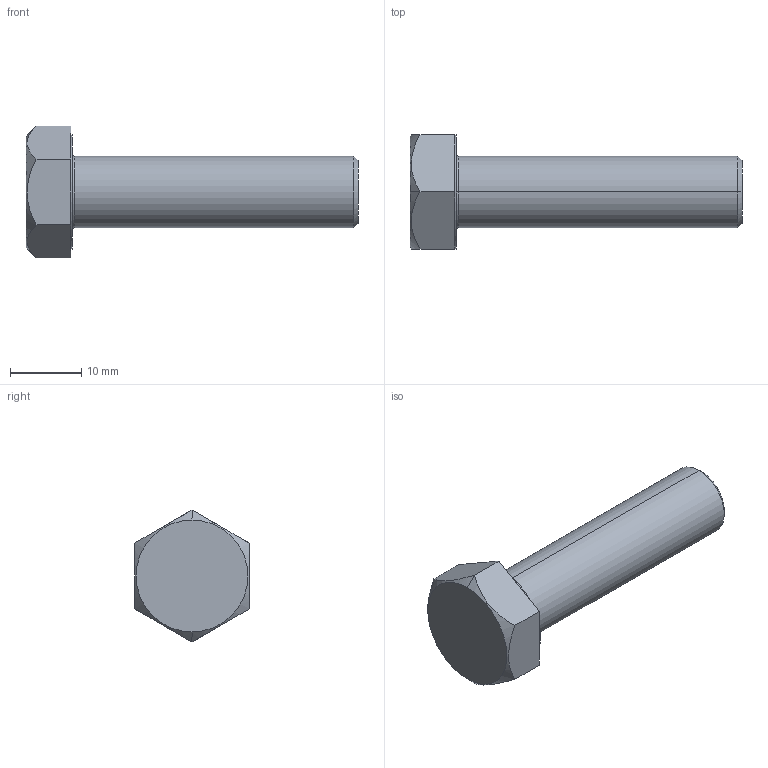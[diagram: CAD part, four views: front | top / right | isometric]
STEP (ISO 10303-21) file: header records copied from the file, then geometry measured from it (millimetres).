
FILE_DESCRIPTION (( 'STEP AP203' ), '1' );
FILE_NAME ('LGN-TD-M10x40.STEP', '2026-08-14T04:47:03', ( '' ), ( '' ), 'SwSTEP 2.0', 'SolidWorks 2020', '' );
FILE_SCHEMA (( 'CONFIG_CONTROL_DESIGN' ));
Length unit declared in the file: millimetre
Products named in the file (1): LGN-TD-M10x40
Bounding box: 46.5 x 16 x 18.48 mm (x, y, z)
Volume: 4562 mm3; surface area: 2023.1 mm2
Topology: 1 solids, 1 shells, 25 faces, 54 edges, 32 vertices
Faces by surface type: plane 15, cone 4, cylinder 4, torus 2
Entity records: 811 total; most frequent: CARTESIAN_POINT 184, DIRECTION 122, ORIENTED_EDGE 108, EDGE_CURVE 54, AXIS2_PLACEMENT_3D 48, VERTEX_POINT 32, EDGE_LOOP 26, VECTOR 26
